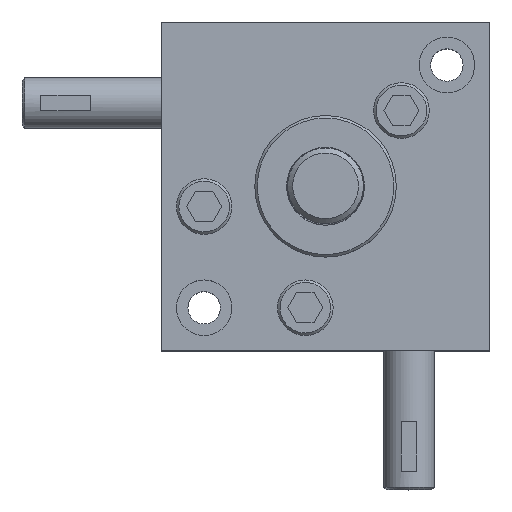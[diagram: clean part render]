
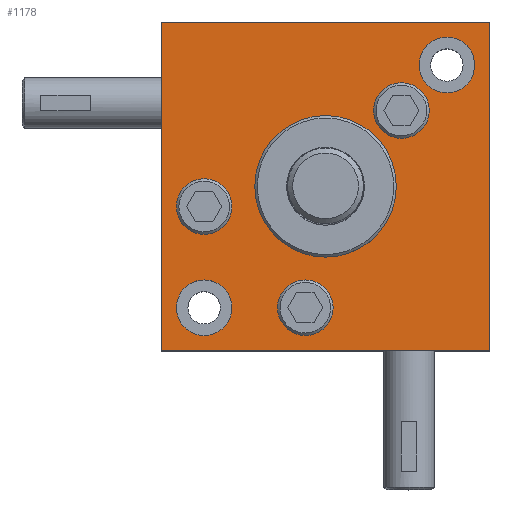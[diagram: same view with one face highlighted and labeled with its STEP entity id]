
A CAD part, top view. The second image highlights one B-rep face of the part: STEP entity #1178.
In plain terms, the highlighted planar face has unit normal (0, 0, 1) as drawn and (0, 0, -1) by its records, which use the part's own axes.
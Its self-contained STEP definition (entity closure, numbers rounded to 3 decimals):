
#1178=ADVANCED_FACE('',(#2079,#2080,#2081,#2082,#2083,#2084,#2085),#2086,.F.);
#2079=FACE_OUTER_BOUND('',#3069,.T.);
#2080=FACE_BOUND('',#3070,.T.);
#2081=FACE_BOUND('',#3071,.T.);
#2082=FACE_BOUND('',#3072,.T.);
#2083=FACE_BOUND('',#3073,.T.);
#2084=FACE_BOUND('',#3074,.T.);
#2085=FACE_BOUND('',#3075,.T.);
#2086=PLANE('',#3076);
#3069=EDGE_LOOP('',(#5803,#5804,#5805,#5806));
#3070=EDGE_LOOP('',(#5807));
#3071=EDGE_LOOP('',(#5808));
#3072=EDGE_LOOP('',(#5809));
#3073=EDGE_LOOP('',(#5810));
#3074=EDGE_LOOP('',(#5811));
#3075=EDGE_LOOP('',(#5812));
#3076=AXIS2_PLACEMENT_3D('',#5813,#5814,#5815);
#5803=ORIENTED_EDGE('',*,*,#7110,.F.);
#5804=ORIENTED_EDGE('',*,*,#7111,.F.);
#5805=ORIENTED_EDGE('',*,*,#7083,.F.);
#5806=ORIENTED_EDGE('',*,*,#7081,.F.);
#5807=ORIENTED_EDGE('',*,*,#7112,.T.);
#5808=ORIENTED_EDGE('',*,*,#7113,.T.);
#5809=ORIENTED_EDGE('',*,*,#7114,.T.);
#5810=ORIENTED_EDGE('',*,*,#7035,.T.);
#5811=ORIENTED_EDGE('',*,*,#7115,.T.);
#5812=ORIENTED_EDGE('',*,*,#7116,.T.);
#5813=CARTESIAN_POINT('',(0.0,0.0,-17.0));
#5814=DIRECTION('',(0.,0.,1.0));
#5815=DIRECTION('',(1.0,0.,0.));
#7035=EDGE_CURVE('',#8464,#8464,#8465,.T.);
#7081=EDGE_CURVE('',#8550,#8552,#8553,.T.);
#7083=EDGE_CURVE('',#8552,#8555,#8556,.T.);
#7110=EDGE_CURVE('',#8605,#8550,#8606,.T.);
#7111=EDGE_CURVE('',#8555,#8605,#8607,.T.);
#7112=EDGE_CURVE('',#8608,#8608,#8609,.T.);
#7113=EDGE_CURVE('',#8610,#8610,#8611,.T.);
#7114=EDGE_CURVE('',#8612,#8612,#8613,.T.);
#7115=EDGE_CURVE('',#8614,#8614,#8615,.T.);
#7116=EDGE_CURVE('',#8616,#8616,#8617,.T.);
#8464=VERTEX_POINT('',#10835);
#8465=CIRCLE('',#10836,5.5);
#8550=VERTEX_POINT('',#10961);
#8552=VERTEX_POINT('',#10964);
#8553=LINE('',#10965,#10966);
#8555=VERTEX_POINT('',#10969);
#8556=LINE('',#10970,#10971);
#8605=VERTEX_POINT('',#11037);
#8606=LINE('',#11038,#11039);
#8607=LINE('',#11040,#11041);
#8608=VERTEX_POINT('',#11042);
#8609=CIRCLE('',#11043,5.5);
#8610=VERTEX_POINT('',#11044);
#8611=CIRCLE('',#11045,5.5);
#8612=VERTEX_POINT('',#11046);
#8613=CIRCLE('',#11047,5.5);
#8614=VERTEX_POINT('',#11048);
#8615=CIRCLE('',#11049,5.5);
#8616=VERTEX_POINT('',#11050);
#8617=CIRCLE('',#11051,14.0);
#10835=CARTESIAN_POINT('',(20.5,15.0,-17.0));
#10836=AXIS2_PLACEMENT_3D('',#12473,#12474,#12475);
#10961=CARTESIAN_POINT('',(32.5,-32.5,-17.0));
#10964=CARTESIAN_POINT('',(32.5,32.5,-17.0));
#10965=CARTESIAN_POINT('',(32.5,0.,-17.0));
#10966=VECTOR('',#12542,1.0);
#10969=CARTESIAN_POINT('',(-32.5,32.5,-17.0));
#10970=CARTESIAN_POINT('',(0.0,32.5,-17.0));
#10971=VECTOR('',#12544,1.0);
#11037=CARTESIAN_POINT('',(-32.5,-32.5,-17.0));
#11038=CARTESIAN_POINT('',(0.,-32.5,-17.0));
#11039=VECTOR('',#12589,1.0);
#11040=CARTESIAN_POINT('',(-32.5,0.,-17.0));
#11041=VECTOR('',#12590,1.0);
#11042=CARTESIAN_POINT('',(1.5,-24.0,-17.0));
#11043=AXIS2_PLACEMENT_3D('',#12591,#12592,#12593);
#11044=CARTESIAN_POINT('',(-18.5,-24.0,-17.0));
#11045=AXIS2_PLACEMENT_3D('',#12594,#12595,#12596);
#11046=CARTESIAN_POINT('',(-18.5,-4.0,-17.0));
#11047=AXIS2_PLACEMENT_3D('',#12597,#12598,#12599);
#11048=CARTESIAN_POINT('',(29.5,24.0,-17.0));
#11049=AXIS2_PLACEMENT_3D('',#12600,#12601,#12602);
#11050=CARTESIAN_POINT('',(14.0,0.,-17.0));
#11051=AXIS2_PLACEMENT_3D('',#12603,#12604,#12605);
#12473=CARTESIAN_POINT('',(15.0,15.0,-17.0));
#12474=DIRECTION('',(0.0,0.0,1.0));
#12475=DIRECTION('',(1.0,0.0,0.0));
#12542=DIRECTION('',(0.0,1.0,0.));
#12544=DIRECTION('',(-1.0,0.0,0.));
#12589=DIRECTION('',(1.0,0.0,0.));
#12590=DIRECTION('',(0.0,-1.0,0.));
#12591=CARTESIAN_POINT('',(-4.0,-24.0,-17.0));
#12592=DIRECTION('',(0.,0.,1.0));
#12593=DIRECTION('',(1.0,0.,0.));
#12594=CARTESIAN_POINT('',(-24.0,-24.0,-17.0));
#12595=DIRECTION('',(0.0,0.0,1.0));
#12596=DIRECTION('',(1.0,0.0,0.0));
#12597=CARTESIAN_POINT('',(-24.0,-4.0,-17.0));
#12598=DIRECTION('',(0.0,0.0,1.0));
#12599=DIRECTION('',(1.0,0.0,0.0));
#12600=CARTESIAN_POINT('',(24.0,24.0,-17.0));
#12601=DIRECTION('',(0.0,0.0,1.0));
#12602=DIRECTION('',(1.0,0.0,0.0));
#12603=CARTESIAN_POINT('',(0.0,0.0,-17.0));
#12604=DIRECTION('',(0.,0.,1.0));
#12605=DIRECTION('',(1.0,0.,0.));
